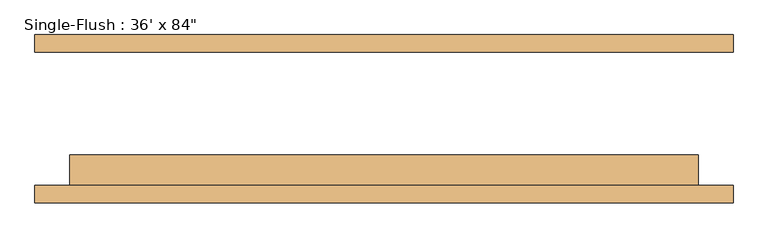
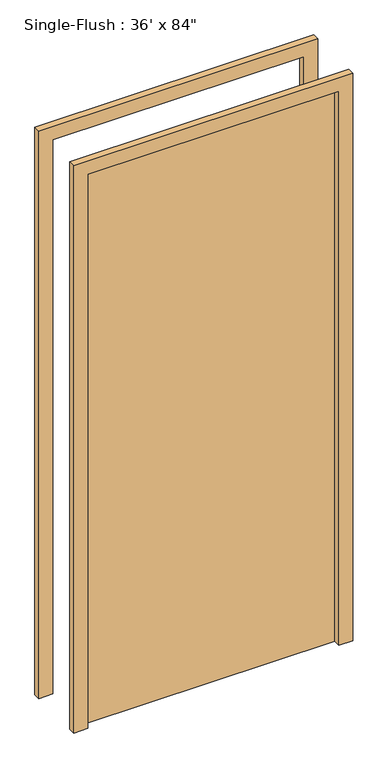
"""IFC4 building model written with IfcOpenShell, lengths in millimetres: door geometry."""

from ifc_helpers import new_model, si_unit, frame, origin, origin_with_axes, place, context, project, spatial, polyline, outline, extrude, source, transform, mapped, element, save


def door_d5256492(model_context):
    return source(origin(), model_context, "Body", "SweptSolid", [
        extrude(outline(polyline([(2184.4, -508.0), (0.0, -508.0), (0.0, -457.2), (2133.6, -457.2), (2133.6, 457.2), (0.0, 457.2), (0.0, 508.0), (2184.4, 508.0), (2184.4, -508.0)])), frame((0.0, -122.4, 0.0), z_axis=(0.0, 1.0, 0.0), x_axis=(0.0, 0.0, 1.0)), (0.0, 0.0, 1.0), 25.4),
        extrude(outline(polyline([(2184.4, 508.0), (2184.4, -508.0), (0.0, -508.0), (0.0, -457.2), (2133.6, -457.2), (2133.6, 457.2), (0.0, 457.2), (0.0, 508.0), (2184.4, 508.0)])), frame((0.0, 97.0, 0.0), z_axis=(0.0, 1.0, 0.0), x_axis=(0.0, 0.0, 1.0)), (0.0, 0.0, 1.0), 25.4),
        extrude(outline(polyline([(457.2, -52.55), (457.2, -97.0), (-457.2, -97.0), (-457.2, -52.55), (457.2, -52.55)])), origin_with_axes(), (0.0, 0.0, 1.0), 2133.6),
    ])


if __name__ == "__main__":
    model = new_model("IFC4")
    model_context = context("Model", 3, world=origin())
    ifc_project = project(units=[si_unit("LENGTHUNIT", "METRE", prefix="MILLI")], contexts=[model_context])
    site = spatial("IfcSite", under=ifc_project)
    building = spatial("IfcBuilding", under=site)
    placement = place(None, origin())
    door_shape = door_d5256492(model_context)
    element("IfcDoor", 1, ObjectType="Single-Flush : 36' x 84\"", at=placement, inside=building, context=model_context, shape_type="MappedRepresentation", body=[
        mapped(door_shape, transform((0.0, 0.0, 0.0), x_axis=(1.0, 0.0, 0.0), y_axis=(0.0, 1.0, 0.0), z_axis=(0.0, 0.0, 1.0))),
    ])
    save(model, "model.ifc")
